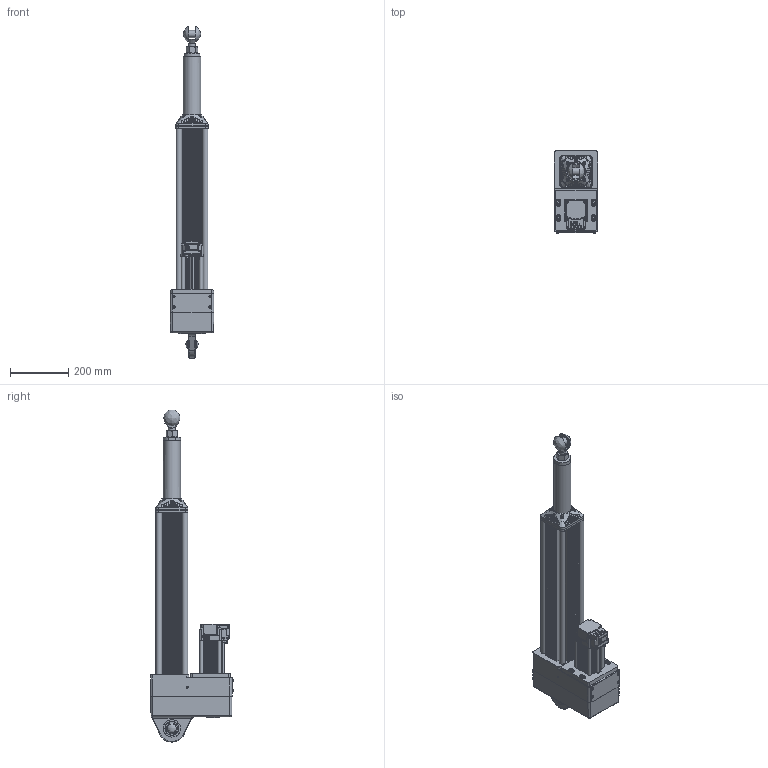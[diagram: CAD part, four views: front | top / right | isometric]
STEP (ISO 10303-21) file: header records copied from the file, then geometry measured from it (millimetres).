
FILE_DESCRIPTION (( 'STEP AP214' ), '1' );
FILE_NAME ('AG_9853 +-200.STEP', '2025-01-30T12:43:54', ( '' ), ( '' ), 'SwSTEP 2.0', 'SolidWorks 2022', '' );
FILE_SCHEMA (( 'AUTOMOTIVE_DESIGN' ));
Length unit declared in the file: millimetre
Products named in the file (1): AG_9853 +-200
Bounding box: 150 x 284.75 x 1144.73 mm (x, y, z)
Volume: 15387814.5 mm3; surface area: 1530167.6 mm2
Topology: 62 solids, 63 shells, 4421 faces, 11357 edges, 7389 vertices
Faces by surface type: plane 1923, cylinder 1175, bspline 900, cone 251, torus 153, sphere 19
Full cylindrical faces by diameter (mm): 2.5 x2, 2.845 x2, 2.934 x2, 3 x2, 3.24 x1, 3.242 x1, 3.5 x2, 3.676 x1, 4.019 x8, 4.2 x9, 4.201 x1, 4.3 x1, 4.773 x4, 5 x12, 5.5 x4, 5.7 x1, 5.9 x1, 6 x4, 6.466 x1, 6.6 x4, 6.8 x2, 6.9 x3, 7 x1, 7.8 x1, 8 x7, 8.1 x1, 8.16 x10, 8.49 x4, 8.5 x13, 9 x1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
Entity records: 218793 total; most frequent: CARTESIAN_POINT 68774, ORIENTED_EDGE 21900, DIRECTION 18752, EDGE_CURVE 10950, VERTEX_POINT 7303, AXIS2_PLACEMENT_3D 6442, LINE 5868, VECTOR 5868
